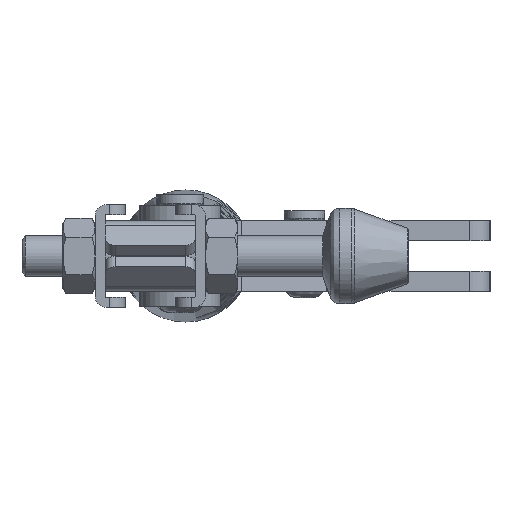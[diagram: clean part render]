
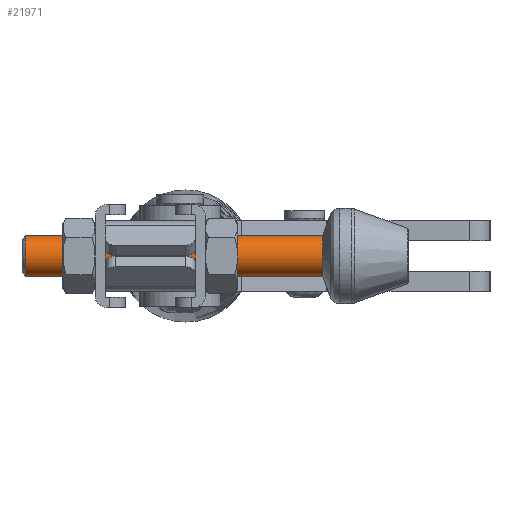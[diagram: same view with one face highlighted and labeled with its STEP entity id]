
A CAD part, left-side view. The second image highlights one B-rep face of the part: STEP entity #21971.
In plain terms, the highlighted cylindrical face has radius 4 mm (diameter 8 mm), a partial arc.
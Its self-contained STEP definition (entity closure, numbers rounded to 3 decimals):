
#960 = DIRECTION ( 'NONE',  ( -1., 0., 0. ) ) ;
#1154 = FACE_OUTER_BOUND ( 'NONE', #25549, .T. ) ;
#1326 = DIRECTION ( 'NONE',  ( 0., 0., 1. ) ) ;
#1738 = VERTEX_POINT ( 'NONE', #4505 ) ;
#2421 = DIRECTION ( 'NONE',  ( -1., 0., 0. ) ) ;
#3131 = VECTOR ( 'NONE', #23709, 1000. ) ;
#4505 = CARTESIAN_POINT ( 'NONE',  ( -17.033, 0., -4. ) ) ;
#4671 = AXIS2_PLACEMENT_3D ( 'NONE', #6641, #17502, #1326 ) ;
#5587 = VERTEX_POINT ( 'NONE', #15385 ) ;
#5878 = EDGE_CURVE ( 'NONE', #5587, #18453, #11426, .T. ) ;
#6641 = CARTESIAN_POINT ( 'NONE',  ( -77., 0., 0. ) ) ;
#6773 = EDGE_CURVE ( 'NONE', #1738, #5587, #20477, .T. ) ;
#10708 = CARTESIAN_POINT ( 'NONE',  ( -77., 0., -4. ) ) ;
#11426 = LINE ( 'NONE', #19603, #29526 ) ;
#11808 = EDGE_CURVE ( 'NONE', #18453, #15525, #34854, .T. ) ;
#11994 = CYLINDRICAL_SURFACE ( 'NONE', #4671, 4. ) ;
#15385 = CARTESIAN_POINT ( 'NONE',  ( -17.033, 0., 4. ) ) ;
#15525 = VERTEX_POINT ( 'NONE', #21093 ) ;
#16638 = ORIENTED_EDGE ( 'NONE', *, *, #28644, .F. ) ;
#17502 = DIRECTION ( 'NONE',  ( -1., 0., 0. ) ) ;
#17636 = CARTESIAN_POINT ( 'NONE',  ( -76.375, 0., 4. ) ) ;
#18453 = VERTEX_POINT ( 'NONE', #17636 ) ;
#18640 = ORIENTED_EDGE ( 'NONE', *, *, #5878, .T. ) ;
#18779 = CARTESIAN_POINT ( 'NONE',  ( -17.033, 0., 0. ) ) ;
#19505 = AXIS2_PLACEMENT_3D ( 'NONE', #21710, #32564, #29543 ) ;
#19603 = CARTESIAN_POINT ( 'NONE',  ( -77., 0., 4. ) ) ;
#20477 = CIRCLE ( 'NONE', #25580, 4. ) ;
#21093 = CARTESIAN_POINT ( 'NONE',  ( -76.375, 0., -4. ) ) ;
#21206 = LINE ( 'NONE', #10708, #3131 ) ;
#21710 = CARTESIAN_POINT ( 'NONE',  ( -76.375, 0., 0. ) ) ;
#21971 = ADVANCED_FACE ( 'NONE', ( #1154 ), #11994, .T. ) ;
#22991 = ORIENTED_EDGE ( 'NONE', *, *, #11808, .T. ) ;
#23709 = DIRECTION ( 'NONE',  ( -1., 0., 0. ) ) ;
#25549 = EDGE_LOOP ( 'NONE', ( #16638, #27811, #18640, #22991 ) ) ;
#25580 = AXIS2_PLACEMENT_3D ( 'NONE', #18779, #2421, #32472 ) ;
#27811 = ORIENTED_EDGE ( 'NONE', *, *, #6773, .T. ) ;
#28644 = EDGE_CURVE ( 'NONE', #1738, #15525, #21206, .T. ) ;
#29526 = VECTOR ( 'NONE', #960, 1000. ) ;
#29543 = DIRECTION ( 'NONE',  ( 0., 0., 1. ) ) ;
#32472 = DIRECTION ( 'NONE',  ( 0., 0., 1. ) ) ;
#32564 = DIRECTION ( 'NONE',  ( 1., 0., 0. ) ) ;
#34854 = CIRCLE ( 'NONE', #19505, 4. ) ;
